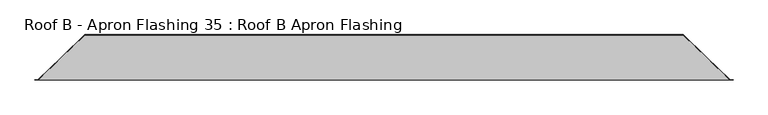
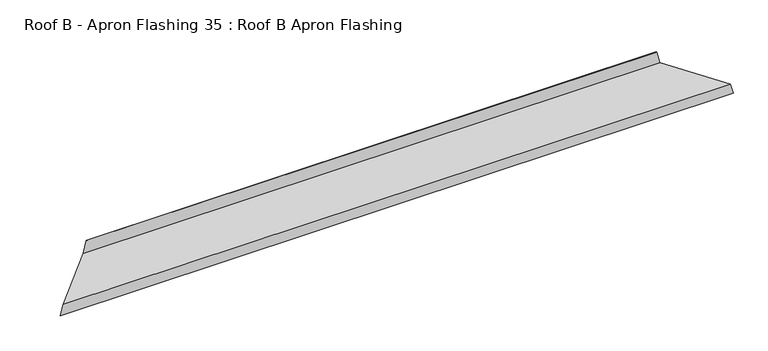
"""IFC4 building model written with IfcOpenShell, lengths in millimetres: proxy geometry, Roof B - Apron Flashing 35 : Roof B Apron Flashing."""

from ifc_helpers import new_model, si_unit, origin, place, context, project, spatial, faceted_brep, source, transform, mapped, element, save


def roof_b_apron_flashing_35_roof_b_apron_flashing_1c69f136(model_context):
    return source(origin(), model_context, "Body", "Brep", [
        faceted_brep([(-12264.1387441, -25878.9651621, 3501.3692317), (-15375.9799371, -25878.9651621, 3501.3692317), (-15165.0445046, -25675.2171801, 3555.963339), (-12475.0741767, -25675.2171801, 3555.963339), (-15149.6108962, -25675.2171801, 3615.5942225), (-12490.507785, -25675.2171801, 3615.5942225), (-15150.576822, -25676.2171801, 3615.5942225), (-12489.5418592, -25676.2171801, 3615.5942225), (-15165.8118315, -25676.2171801, 3556.7306659), (-12474.3068497, -25676.2171801, 3556.7306659), (-15376.7472641, -25879.9651621, 3502.1365587), (-12263.3714172, -25879.9651621, 3502.1365587), (-15390.0117401, -25879.9651621, 3450.8865587), (-12250.1069411, -25879.9651621, 3450.8865587), (-15389.0458143, -25878.9651621, 3450.8865587), (-12251.0728669, -25878.9651621, 3450.8865587)], [[[0, 1, 2, 3]], [[3, 2, 4, 5]], [[5, 4, 6, 7]], [[7, 6, 8, 9]], [[9, 8, 10, 11]], [[11, 10, 12, 13]], [[13, 12, 14, 15]], [[1, 0, 15, 14]], [[2, 1, 14, 12, 10, 8, 6, 4]], [[0, 3, 5, 7, 9, 11, 13, 15]]]),
    ])


if __name__ == "__main__":
    model = new_model("IFC4")
    model_context = context("Model", 3, world=origin())
    ifc_project = project(units=[si_unit("LENGTHUNIT", "METRE", prefix="MILLI")], contexts=[model_context])
    site = spatial("IfcSite", under=ifc_project)
    building = spatial("IfcBuilding", under=site)
    placement = place(None, origin())
    roof_b_apron_flashing_35_roof_b_apron_flashing_shape = roof_b_apron_flashing_35_roof_b_apron_flashing_1c69f136(model_context)
    element("IfcBuildingElementProxy", 1, Name="Roof B - Apron Flashing 35 : Roof B Apron Flashing", ObjectType="Roof B - Apron Flashing 35 : Roof B Apron Flashing", at=placement, inside=building, context=model_context, shape_type="MappedRepresentation", body=[
        mapped(roof_b_apron_flashing_35_roof_b_apron_flashing_shape, transform((0.0, 0.0, 0.0), x_axis=(1.0, 0.0, 0.0), y_axis=(0.0, 1.0, 0.0), z_axis=(0.0, 0.0, 1.0))),
    ])
    save(model, "model.ifc")
